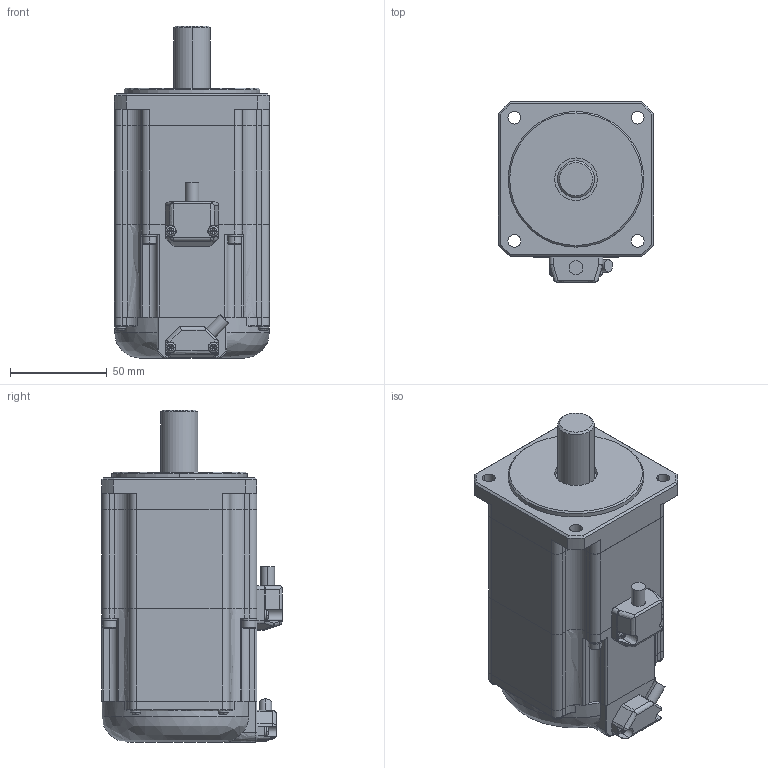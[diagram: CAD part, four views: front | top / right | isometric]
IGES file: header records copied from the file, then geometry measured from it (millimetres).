
Start section: Elysium IGES Interface
Global section: file name: 79H\\nas63\design\04MC研\saka\3DCAD\TBL-i2カタログまとめ\IGSデータ\TS4613_BK有.igs; native system: Creo Elements/Direct Modeling 17.0F  20-Aug-2012; preprocessor: Creo Element/Direct IGES_3D V2.2; author: Unknown; organization: Unknown; date: 20161222.163447; units: millimetre
Bounding box: 80 x 93 x 171.3 mm (x, y, z)
Volume: 777120.1 mm3; surface area: 56948.9 mm2
Topology: 1 solids, 1 shells, 658 faces, 1540 edges, 884 vertices
Faces by surface type: bspline 658
